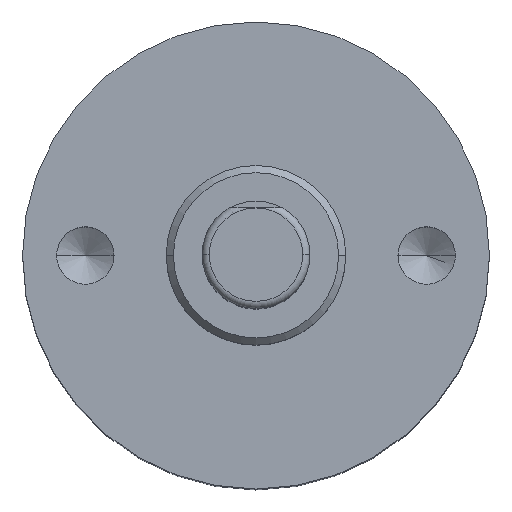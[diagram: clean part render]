
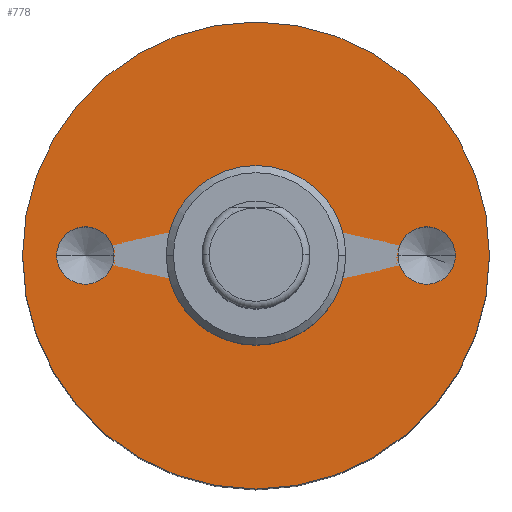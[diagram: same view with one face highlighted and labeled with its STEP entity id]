
A CAD part, top view. The second image highlights one B-rep face of the part: STEP entity #778.
In plain terms, the highlighted planar face has unit normal (0, 0, 1).
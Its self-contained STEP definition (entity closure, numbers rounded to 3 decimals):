
#26 = VERTEX_POINT ( 'NONE', #864 ) ;
#39 = DIRECTION ( 'NONE',  ( 0., 0., 1. ) ) ;
#106 = EDGE_LOOP ( 'NONE', ( #1418, #1368 ) ) ;
#127 = DIRECTION ( 'NONE',  ( 1., 0., 0. ) ) ;
#157 = VERTEX_POINT ( 'NONE', #644 ) ;
#170 = EDGE_CURVE ( 'NONE', #26, #896, #341, .T. ) ;
#193 = AXIS2_PLACEMENT_3D ( 'NONE', #379, #849, #1330 ) ;
#203 = DIRECTION ( 'NONE',  ( 0., 0., 1. ) ) ;
#223 = CIRCLE ( 'NONE', #538, 0.8 ) ;
#256 = PLANE ( 'NONE',  #593 ) ;
#293 = ORIENTED_EDGE ( 'NONE', *, *, #170, .F. ) ;
#310 = CIRCLE ( 'NONE', #1256, 2.5 ) ;
#332 = FACE_BOUND ( 'NONE', #106, .T. ) ;
#340 = AXIS2_PLACEMENT_3D ( 'NONE', #1319, #1081, #643 ) ;
#341 = CIRCLE ( 'NONE', #618, 2.5 ) ;
#348 = VERTEX_POINT ( 'NONE', #1157 ) ;
#350 = CARTESIAN_POINT ( 'NONE',  ( 0., -2.5, -13.9 ) ) ;
#375 = EDGE_LOOP ( 'NONE', ( #542, #293 ) ) ;
#379 = CARTESIAN_POINT ( 'NONE',  ( 0., 0., -13.9 ) ) ;
#395 = DIRECTION ( 'NONE',  ( 1., 0., 0. ) ) ;
#397 = CARTESIAN_POINT ( 'NONE',  ( 0., 0., -13.9 ) ) ;
#408 = CARTESIAN_POINT ( 'NONE',  ( -4.75, 0., -13.9 ) ) ;
#464 = CIRCLE ( 'NONE', #1339, 0.8 ) ;
#497 = ORIENTED_EDGE ( 'NONE', *, *, #1089, .F. ) ;
#499 = DIRECTION ( 'NONE',  ( 0., 0., 1. ) ) ;
#538 = AXIS2_PLACEMENT_3D ( 'NONE', #408, #499, #395 ) ;
#542 = ORIENTED_EDGE ( 'NONE', *, *, #975, .F. ) ;
#546 = ORIENTED_EDGE ( 'NONE', *, *, #1000, .T. ) ;
#549 = ORIENTED_EDGE ( 'NONE', *, *, #579, .F. ) ;
#579 = EDGE_CURVE ( 'NONE', #1289, #1049, #944, .T. ) ;
#592 = FACE_BOUND ( 'NONE', #375, .T. ) ;
#593 = AXIS2_PLACEMENT_3D ( 'NONE', #350, #937, #1322 ) ;
#597 = CARTESIAN_POINT ( 'NONE',  ( -3.95, 0., -13.9 ) ) ;
#603 = EDGE_CURVE ( 'NONE', #856, #348, #223, .T. ) ;
#617 = CIRCLE ( 'NONE', #340, 0.8 ) ;
#618 = AXIS2_PLACEMENT_3D ( 'NONE', #895, #1101, #876 ) ;
#643 = DIRECTION ( 'NONE',  ( 1., 0., 0. ) ) ;
#644 = CARTESIAN_POINT ( 'NONE',  ( 6.5, 0., -13.9 ) ) ;
#658 = CARTESIAN_POINT ( 'NONE',  ( -4.75, 0., -13.9 ) ) ;
#662 = CIRCLE ( 'NONE', #193, 6.5 ) ;
#673 = DIRECTION ( 'NONE',  ( 1., 0., 0. ) ) ;
#704 = VERTEX_POINT ( 'NONE', #1175 ) ;
#706 = CIRCLE ( 'NONE', #872, 6.5 ) ;
#708 = DIRECTION ( 'NONE',  ( 0., 0., 1. ) ) ;
#757 = EDGE_CURVE ( 'NONE', #348, #856, #464, .T. ) ;
#778 = ADVANCED_FACE ( 'NONE', ( #332, #1182, #1420, #592 ), #256, .T. ) ;
#849 = DIRECTION ( 'NONE',  ( 0., 0., 1. ) ) ;
#856 = VERTEX_POINT ( 'NONE', #597 ) ;
#864 = CARTESIAN_POINT ( 'NONE',  ( -2.5, 0., -13.9 ) ) ;
#872 = AXIS2_PLACEMENT_3D ( 'NONE', #397, #912, #874 ) ;
#874 = DIRECTION ( 'NONE',  ( 1., 0., 0. ) ) ;
#876 = DIRECTION ( 'NONE',  ( 1., 0., 0. ) ) ;
#895 = CARTESIAN_POINT ( 'NONE',  ( 0., 0., -13.9 ) ) ;
#896 = VERTEX_POINT ( 'NONE', #1497 ) ;
#912 = DIRECTION ( 'NONE',  ( 0., 0., 1. ) ) ;
#937 = DIRECTION ( 'NONE',  ( 0., 0., 1. ) ) ;
#944 = CIRCLE ( 'NONE', #1106, 0.8 ) ;
#955 = CARTESIAN_POINT ( 'NONE',  ( 3.95, 0., -13.9 ) ) ;
#975 = EDGE_CURVE ( 'NONE', #896, #26, #310, .T. ) ;
#1000 = EDGE_CURVE ( 'NONE', #704, #157, #662, .T. ) ;
#1049 = VERTEX_POINT ( 'NONE', #1146 ) ;
#1081 = DIRECTION ( 'NONE',  ( 0., 0., 1. ) ) ;
#1088 = CARTESIAN_POINT ( 'NONE',  ( 0., 0., -13.9 ) ) ;
#1089 = EDGE_CURVE ( 'NONE', #1049, #1289, #617, .T. ) ;
#1101 = DIRECTION ( 'NONE',  ( 0., 0., 1. ) ) ;
#1106 = AXIS2_PLACEMENT_3D ( 'NONE', #1300, #708, #127 ) ;
#1146 = CARTESIAN_POINT ( 'NONE',  ( 5.55, 0., -13.9 ) ) ;
#1157 = CARTESIAN_POINT ( 'NONE',  ( -5.55, 0., -13.9 ) ) ;
#1175 = CARTESIAN_POINT ( 'NONE',  ( -6.5, 0., -13.9 ) ) ;
#1182 = FACE_BOUND ( 'NONE', #1244, .T. ) ;
#1244 = EDGE_LOOP ( 'NONE', ( #497, #549 ) ) ;
#1254 = EDGE_LOOP ( 'NONE', ( #1344, #546 ) ) ;
#1256 = AXIS2_PLACEMENT_3D ( 'NONE', #1088, #39, #1447 ) ;
#1289 = VERTEX_POINT ( 'NONE', #955 ) ;
#1300 = CARTESIAN_POINT ( 'NONE',  ( 4.75, 0., -13.9 ) ) ;
#1319 = CARTESIAN_POINT ( 'NONE',  ( 4.75, 0., -13.9 ) ) ;
#1322 = DIRECTION ( 'NONE',  ( 1., 0., 0. ) ) ;
#1330 = DIRECTION ( 'NONE',  ( 1., 0., 0. ) ) ;
#1339 = AXIS2_PLACEMENT_3D ( 'NONE', #658, #203, #673 ) ;
#1344 = ORIENTED_EDGE ( 'NONE', *, *, #1457, .T. ) ;
#1368 = ORIENTED_EDGE ( 'NONE', *, *, #757, .F. ) ;
#1418 = ORIENTED_EDGE ( 'NONE', *, *, #603, .F. ) ;
#1420 = FACE_OUTER_BOUND ( 'NONE', #1254, .T. ) ;
#1447 = DIRECTION ( 'NONE',  ( 1., 0., 0. ) ) ;
#1457 = EDGE_CURVE ( 'NONE', #157, #704, #706, .T. ) ;
#1497 = CARTESIAN_POINT ( 'NONE',  ( 2.5, 0., -13.9 ) ) ;
